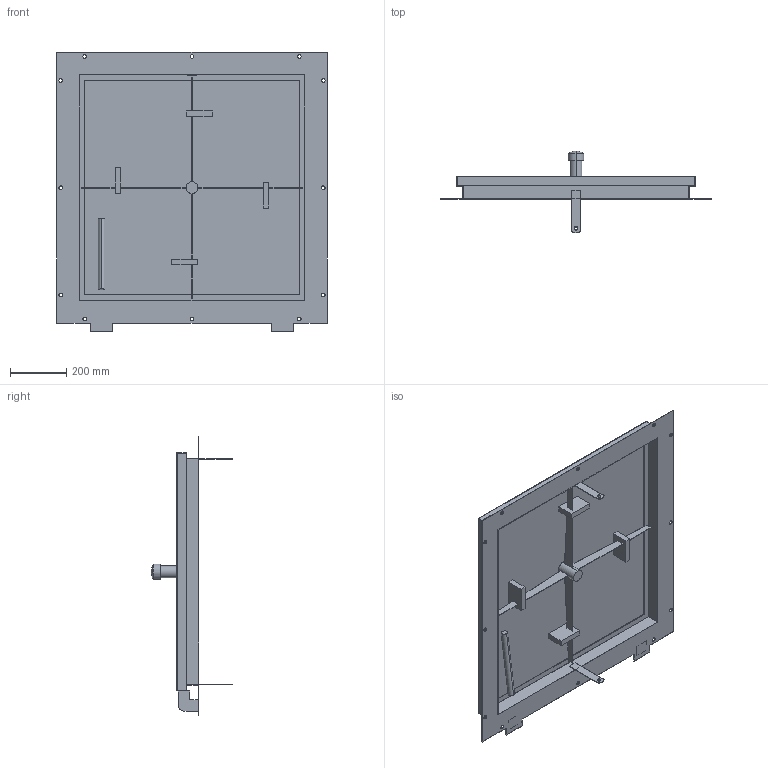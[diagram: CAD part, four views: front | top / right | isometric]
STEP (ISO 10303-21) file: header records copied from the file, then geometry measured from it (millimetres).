
FILE_DESCRIPTION((''),'2;1');
FILE_NAME('52300121','2024-10-02T10:12:10',('wep'),('HUBER SE'),'CREO PARAMETRIC BY PTC INC, 2022162','CREO PARAMETRIC BY PTC INC, 2022162','');
FILE_SCHEMA(('AUTOMOTIVE_DESIGN { 1 0 10303 214 1 1 1 1 }'));
Length unit declared in the file: millimetre
Products named in the file (1): 52300121
Bounding box: 960 x 289 x 990 mm (x, y, z)
Volume: 4012117.8 mm3; surface area: 2936292.6 mm2
Topology: 2 solids, 2 shells, 174 faces, 446 edges, 293 vertices
Faces by surface type: plane 132, cylinder 40, sphere 2
Entity records: 5823 total; most frequent: CARTESIAN_POINT 913, ORIENTED_EDGE 888, DIRECTION 874, EDGE_CURVE 444, VECTOR 362, LINE 362, VERTEX_POINT 293, AXIS2_PLACEMENT_3D 256
